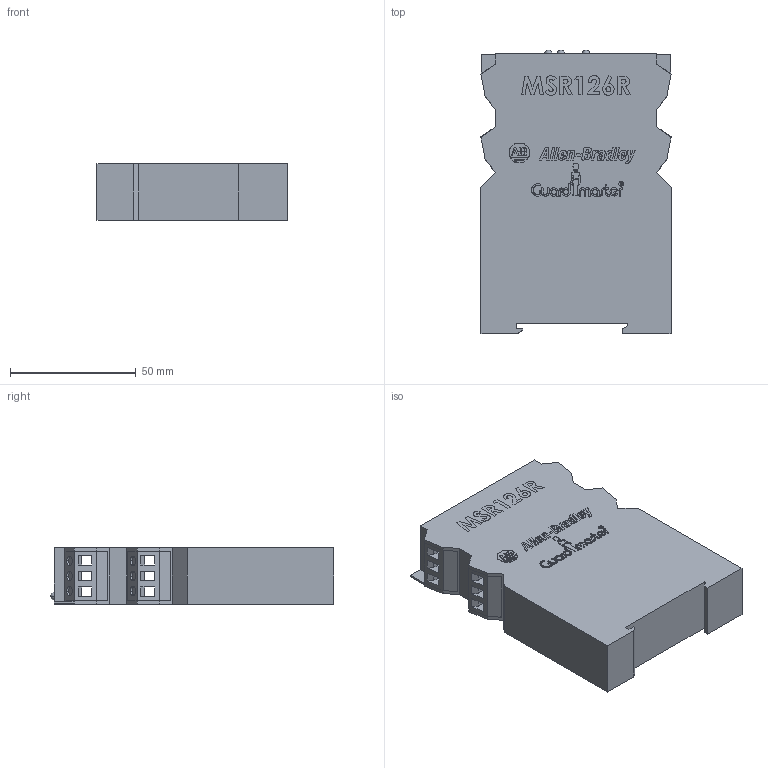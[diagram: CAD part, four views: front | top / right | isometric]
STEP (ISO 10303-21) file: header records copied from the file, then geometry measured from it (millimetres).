
FILE_DESCRIPTION (( 'STEP AP203' ), '1' );
FILE_NAME ('MSR126R.STEP', '2010-08-17T20:57:02', ( 'Rockwell Automation' ), ( 'Rockwell Automation' ), 'SwSTEP 2.0', 'SolidWorks 2010', '' );
FILE_SCHEMA (( 'CONFIG_CONTROL_DESIGN' ));
Products named in the file (1): MSR126R
Bounding box: 75.58 x 112.73 x 22.75 mm (x, y, z)
Volume: 171486.9 mm3; surface area: 36171.9 mm2
Topology: 76 solids, 76 shells, 1775 faces, 4609 edges, 3073 vertices
Faces by surface type: plane 1191, bspline 480, cylinder 100, sphere 4
Entity records: 126475 total; most frequent: CARTESIAN_POINT 85922, ORIENTED_EDGE 9192, DIRECTION 6434, EDGE_CURVE 4596, VECTOR 3430, LINE 3430, VERTEX_POINT 3066, EDGE_LOOP 1984
